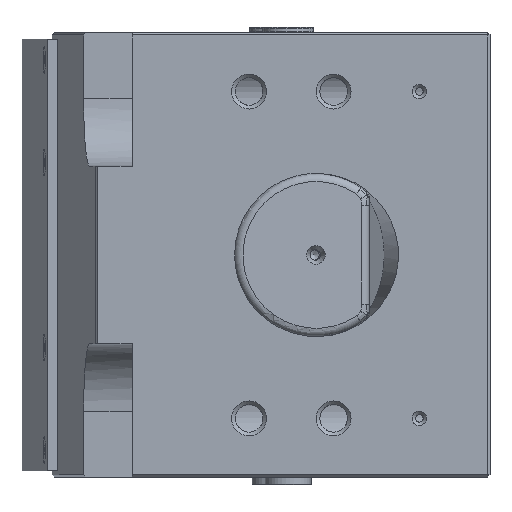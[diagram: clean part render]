
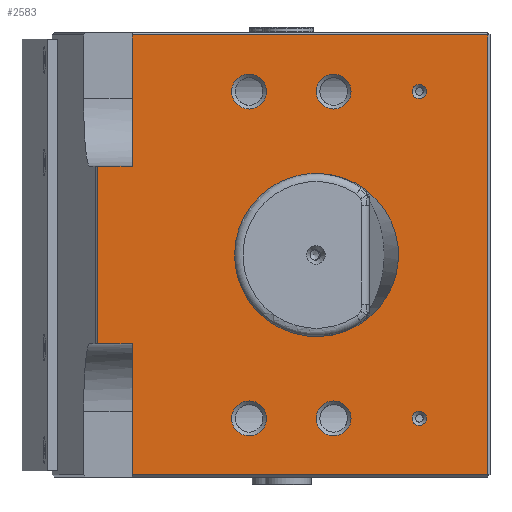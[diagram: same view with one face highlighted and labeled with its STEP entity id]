
A CAD part, left-side view. The second image highlights one B-rep face of the part: STEP entity #2583.
In plain terms, the highlighted planar face has unit normal (-1, 0, 0).
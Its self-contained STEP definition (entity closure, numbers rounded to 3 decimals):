
#2364=CARTESIAN_POINT('',(0.,106.613,-43.2));
#2365=VERTEX_POINT('',#2364);
#2388=CARTESIAN_POINT('',(0.,89.6,-43.2));
#2389=VERTEX_POINT('',#2388);
#2396=CARTESIAN_POINT('',(0.,106.613,-43.2));
#2397=DIRECTION('',(0.0,-1.0,0.0));
#2398=VECTOR('',#2397,17.013);
#2399=LINE('',#2396,#2398);
#2400=EDGE_CURVE('',#2365,#2389,#2399,.T.);
#2410=CARTESIAN_POINT('',(0.,106.613,43.2));
#2411=VERTEX_POINT('',#2410);
#2420=CARTESIAN_POINT('',(0.,89.6,43.2));
#2421=VERTEX_POINT('',#2420);
#2422=CARTESIAN_POINT('',(0.,89.6,43.2));
#2423=DIRECTION('',(0.0,1.0,0.0));
#2424=VECTOR('',#2423,17.013);
#2425=LINE('',#2422,#2424);
#2426=EDGE_CURVE('',#2421,#2411,#2425,.T.);
#2453=CARTESIAN_POINT('',(0.,-84.382,0.0));
#2454=DIRECTION('',(-1.0,0.0,0.0));
#2455=DIRECTION('',(0.0,0.0,1.0));
#2456=AXIS2_PLACEMENT_3D('',#2453,#2454,#2455);
#2457=PLANE('',#2456);
#2458=ORIENTED_EDGE('',*,*,#2400,.T.);
#2459=CARTESIAN_POINT('',(0.,89.6,-107.));
#2460=VERTEX_POINT('',#2459);
#2461=CARTESIAN_POINT('',(0.,89.6,-43.2));
#2462=DIRECTION('',(0.0,0.0,-1.0));
#2463=VECTOR('',#2462,63.8);
#2464=LINE('',#2461,#2463);
#2465=EDGE_CURVE('',#2389,#2460,#2464,.T.);
#2466=ORIENTED_EDGE('',*,*,#2465,.T.);
#2467=CARTESIAN_POINT('',(0.,-83.382,-107.));
#2468=VERTEX_POINT('',#2467);
#2469=CARTESIAN_POINT('',(0.,-83.382,-107.));
#2470=DIRECTION('',(0.0,1.0,0.0));
#2471=VECTOR('',#2470,172.982);
#2472=LINE('',#2469,#2471);
#2473=EDGE_CURVE('',#2468,#2460,#2472,.T.);
#2474=ORIENTED_EDGE('',*,*,#2473,.F.);
#2475=CARTESIAN_POINT('',(0.,-83.382,107.));
#2476=VERTEX_POINT('',#2475);
#2477=CARTESIAN_POINT('',(0.,-83.382,107.));
#2478=DIRECTION('',(0.0,0.0,-1.0));
#2479=VECTOR('',#2478,214.);
#2480=LINE('',#2477,#2479);
#2481=EDGE_CURVE('',#2476,#2468,#2480,.T.);
#2482=ORIENTED_EDGE('',*,*,#2481,.F.);
#2483=CARTESIAN_POINT('',(0.,89.6,107.));
#2484=VERTEX_POINT('',#2483);
#2485=CARTESIAN_POINT('',(0.,89.6,107.));
#2486=DIRECTION('',(0.0,-1.0,0.0));
#2487=VECTOR('',#2486,172.982);
#2488=LINE('',#2485,#2487);
#2489=EDGE_CURVE('',#2484,#2476,#2488,.T.);
#2490=ORIENTED_EDGE('',*,*,#2489,.F.);
#2491=CARTESIAN_POINT('',(0.,89.6,107.0));
#2492=DIRECTION('',(0.0,0.0,-1.0));
#2493=VECTOR('',#2492,63.8);
#2494=LINE('',#2491,#2493);
#2495=EDGE_CURVE('',#2484,#2421,#2494,.T.);
#2496=ORIENTED_EDGE('',*,*,#2495,.T.);
#2497=ORIENTED_EDGE('',*,*,#2426,.T.);
#2498=CARTESIAN_POINT('',(0.,106.613,-43.2));
#2499=DIRECTION('',(0.0,0.0,1.0));
#2500=VECTOR('',#2499,86.4);
#2501=LINE('',#2498,#2500);
#2502=EDGE_CURVE('',#2365,#2411,#2501,.T.);
#2503=ORIENTED_EDGE('',*,*,#2502,.F.);
#2504=EDGE_LOOP('',(#2458,#2466,#2474,#2482,#2490,#2496,#2497,#2503));
#2505=FACE_OUTER_BOUND('',#2504,.T.);
#2506=CARTESIAN_POINT('',(0.,-50.,83.0));
#2507=VERTEX_POINT('',#2506);
#2508=CARTESIAN_POINT('',(0.,-50.,79.5));
#2509=DIRECTION('',(1.0,0.0,0.0));
#2510=DIRECTION('',(0.0,0.0,1.0));
#2511=AXIS2_PLACEMENT_3D('',#2508,#2509,#2510);
#2512=CIRCLE('',#2511,3.5);
#2513=EDGE_CURVE('',#2507,#2507,#2512,.T.);
#2514=ORIENTED_EDGE('',*,*,#2513,.T.);
#2515=EDGE_LOOP('',(#2514));
#2516=FACE_BOUND('',#2515,.T.);
#2517=CARTESIAN_POINT('',(0.,-50.,-76.0));
#2518=VERTEX_POINT('',#2517);
#2519=CARTESIAN_POINT('',(0.,-50.,-79.5));
#2520=DIRECTION('',(1.0,0.0,0.0));
#2521=DIRECTION('',(0.0,0.0,1.0));
#2522=AXIS2_PLACEMENT_3D('',#2519,#2520,#2521);
#2523=CIRCLE('',#2522,3.5);
#2524=EDGE_CURVE('',#2518,#2518,#2523,.T.);
#2525=ORIENTED_EDGE('',*,*,#2524,.T.);
#2526=EDGE_LOOP('',(#2525));
#2527=FACE_BOUND('',#2526,.T.);
#2528=CARTESIAN_POINT('',(0.,32.8,88.0));
#2529=VERTEX_POINT('',#2528);
#2530=CARTESIAN_POINT('',(0.,32.8,79.5));
#2531=DIRECTION('',(1.0,0.0,0.0));
#2532=DIRECTION('',(0.0,0.0,1.0));
#2533=AXIS2_PLACEMENT_3D('',#2530,#2531,#2532);
#2534=CIRCLE('',#2533,8.5);
#2535=EDGE_CURVE('',#2529,#2529,#2534,.T.);
#2536=ORIENTED_EDGE('',*,*,#2535,.T.);
#2537=EDGE_LOOP('',(#2536));
#2538=FACE_BOUND('',#2537,.T.);
#2539=CARTESIAN_POINT('',(0.,-8.3,88.0));
#2540=VERTEX_POINT('',#2539);
#2541=CARTESIAN_POINT('',(0.,-8.3,79.5));
#2542=DIRECTION('',(1.0,0.0,0.0));
#2543=DIRECTION('',(0.0,0.0,1.0));
#2544=AXIS2_PLACEMENT_3D('',#2541,#2542,#2543);
#2545=CIRCLE('',#2544,8.5);
#2546=EDGE_CURVE('',#2540,#2540,#2545,.T.);
#2547=ORIENTED_EDGE('',*,*,#2546,.T.);
#2548=EDGE_LOOP('',(#2547));
#2549=FACE_BOUND('',#2548,.T.);
#2550=CARTESIAN_POINT('',(0.,32.8,-71.0));
#2551=VERTEX_POINT('',#2550);
#2552=CARTESIAN_POINT('',(0.,32.8,-79.5));
#2553=DIRECTION('',(1.0,0.0,0.0));
#2554=DIRECTION('',(0.0,0.0,1.0));
#2555=AXIS2_PLACEMENT_3D('',#2552,#2553,#2554);
#2556=CIRCLE('',#2555,8.5);
#2557=EDGE_CURVE('',#2551,#2551,#2556,.T.);
#2558=ORIENTED_EDGE('',*,*,#2557,.T.);
#2559=EDGE_LOOP('',(#2558));
#2560=FACE_BOUND('',#2559,.T.);
#2561=CARTESIAN_POINT('',(0.,-8.3,-71.0));
#2562=VERTEX_POINT('',#2561);
#2563=CARTESIAN_POINT('',(0.,-8.3,-79.5));
#2564=DIRECTION('',(1.0,0.0,0.0));
#2565=DIRECTION('',(0.0,0.0,1.0));
#2566=AXIS2_PLACEMENT_3D('',#2563,#2564,#2565);
#2567=CIRCLE('',#2566,8.5);
#2568=EDGE_CURVE('',#2562,#2562,#2567,.T.);
#2569=ORIENTED_EDGE('',*,*,#2568,.T.);
#2570=EDGE_LOOP('',(#2569));
#2571=FACE_BOUND('',#2570,.T.);
#2572=CARTESIAN_POINT('',(0.,39.852,0.));
#2573=VERTEX_POINT('',#2572);
#2574=CARTESIAN_POINT('',(0.0,0.0,0.0));
#2575=DIRECTION('',(1.0,0.0,0.0));
#2576=DIRECTION('',(0.0,-1.0,0.0));
#2577=AXIS2_PLACEMENT_3D('',#2574,#2575,#2576);
#2578=ELLIPSE('',#2577,39.852,39.7);
#2579=EDGE_CURVE('',#2573,#2573,#2578,.T.);
#2580=ORIENTED_EDGE('',*,*,#2579,.T.);
#2581=EDGE_LOOP('',(#2580));
#2582=FACE_BOUND('',#2581,.T.);
#2583=ADVANCED_FACE('',(#2505,#2516,#2527,#2538,#2549,#2560,#2571,#2582),#2457,.T.);
